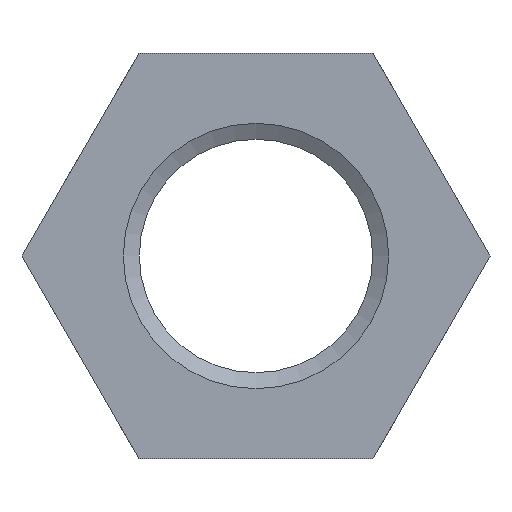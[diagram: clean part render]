
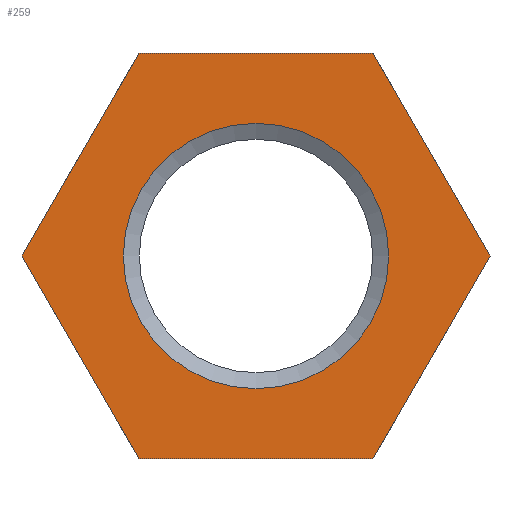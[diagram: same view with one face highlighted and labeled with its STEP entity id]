
A CAD part, front view. The second image highlights one B-rep face of the part: STEP entity #259.
In plain terms, the highlighted planar face has unit normal (0, -1, 0).
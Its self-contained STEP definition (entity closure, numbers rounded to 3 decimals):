
#14=LINE($,#435,#26);
#17=LINE($,#440,#29);
#19=LINE($,#444,#31);
#21=LINE($,#448,#33);
#23=LINE($,#452,#35);
#24=LINE($,#454,#36);
#26=VECTOR($,#334,31.754);
#29=VECTOR($,#339,31.754);
#31=VECTOR($,#343,31.754);
#33=VECTOR($,#347,31.754);
#35=VECTOR($,#351,31.754);
#36=VECTOR($,#354,31.754);
#43=PLANE($,#289);
#61=FACE_BOUND($,#98,.T.);
#62=FACE_BOUND($,#99,.T.);
#98=EDGE_LOOP($,(#222));
#99=EDGE_LOOP($,(#223,#224,#225,#226,#227,#228));
#102=CIRCLE($,#265,18.);
#112=VERTEX_POINT($,#361);
#128=VERTEX_POINT($,#432);
#129=VERTEX_POINT($,#434);
#130=VERTEX_POINT($,#438);
#131=VERTEX_POINT($,#442);
#132=VERTEX_POINT($,#446);
#133=VERTEX_POINT($,#450);
#134=EDGE_CURVE($,#112,#112,#102,.T.);
#157=EDGE_CURVE($,#129,#128,#14,.T.);
#160=EDGE_CURVE($,#128,#130,#17,.T.);
#162=EDGE_CURVE($,#130,#131,#19,.T.);
#164=EDGE_CURVE($,#131,#132,#21,.T.);
#166=EDGE_CURVE($,#132,#133,#23,.T.);
#167=EDGE_CURVE($,#133,#129,#24,.T.);
#222=ORIENTED_EDGE($,*,*,#134,.T.);
#223=ORIENTED_EDGE($,*,*,#162,.T.);
#224=ORIENTED_EDGE($,*,*,#164,.T.);
#225=ORIENTED_EDGE($,*,*,#166,.T.);
#226=ORIENTED_EDGE($,*,*,#167,.T.);
#227=ORIENTED_EDGE($,*,*,#157,.T.);
#228=ORIENTED_EDGE($,*,*,#160,.T.);
#259=ADVANCED_FACE($,(#61,#62),#43,.T.);
#265=AXIS2_PLACEMENT_3D($,#362,#295,#296);
#289=AXIS2_PLACEMENT_3D($,#455,#355,#356);
#295=DIRECTION('center_axis',(0.,1.,0.));
#296=DIRECTION('ref_axis',(-1.,0.,0.));
#334=DIRECTION($,(-1.,0.,0.));
#339=DIRECTION($,(-0.5,0.,-0.866));
#343=DIRECTION($,(0.5,0.,-0.866));
#347=DIRECTION($,(1.,0.,0.));
#351=DIRECTION($,(0.5,0.,0.866));
#354=DIRECTION($,(-0.5,0.,0.866));
#355=DIRECTION('center_axis',(0.,-1.,0.));
#356=DIRECTION('ref_axis',(0.,0.,-1.));
#361=CARTESIAN_POINT('',(-18.,0.,0.));
#362=CARTESIAN_POINT('Origin',(0.,0.,0.));
#432=CARTESIAN_POINT('',(-15.877,0.,27.5));
#434=CARTESIAN_POINT('',(15.877,0.,27.5));
#435=CARTESIAN_POINT($,(15.877,0.,27.5));
#438=CARTESIAN_POINT('',(-31.754,0.,0.));
#440=CARTESIAN_POINT($,(-15.877,0.,27.5));
#442=CARTESIAN_POINT('',(-15.877,0.,-27.5));
#444=CARTESIAN_POINT($,(-31.754,0.,0.));
#446=CARTESIAN_POINT('',(15.877,0.,-27.5));
#448=CARTESIAN_POINT($,(-15.877,0.,-27.5));
#450=CARTESIAN_POINT('',(31.754,0.,0.));
#452=CARTESIAN_POINT($,(15.877,0.,-27.5));
#454=CARTESIAN_POINT($,(31.754,0.,0.));
#455=CARTESIAN_POINT('Origin',(0.,0.,0.));
